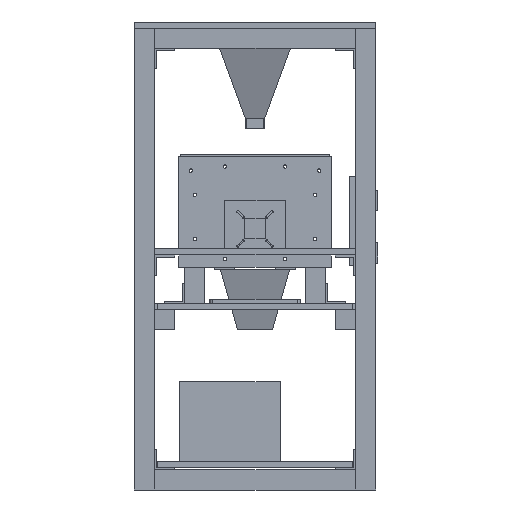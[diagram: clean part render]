
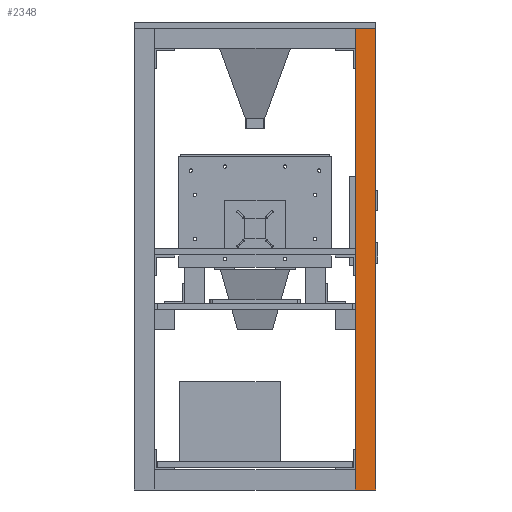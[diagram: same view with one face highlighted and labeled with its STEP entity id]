
A CAD part, left-side view. The second image highlights one B-rep face of the part: STEP entity #2348.
In plain terms, the highlighted planar face has unit normal (-1, 0, 0).
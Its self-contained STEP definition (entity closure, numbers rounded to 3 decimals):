
#2348 = ADVANCED_FACE('',(#2349),#2363,.F.);
#2349 = FACE_BOUND('',#2350,.F.);
#2350 = EDGE_LOOP('',(#2351,#2386,#2414,#2442));
#2351 = ORIENTED_EDGE('',*,*,#2352,.F.);
#2352 = EDGE_CURVE('',#2353,#2355,#2357,.T.);
#2353 = VERTEX_POINT('',#2354);
#2354 = CARTESIAN_POINT('',(0.,0.,0.));
#2355 = VERTEX_POINT('',#2356);
#2356 = CARTESIAN_POINT('',(0.,0.,460.));
#2357 = SURFACE_CURVE('',#2358,(#2362,#2374),.PCURVE_S1.);
#2358 = LINE('',#2359,#2360);
#2359 = CARTESIAN_POINT('',(0.,0.,0.));
#2360 = VECTOR('',#2361,1.);
#2361 = DIRECTION('',(0.,0.,1.));
#2362 = PCURVE('',#2363,#2368);
#2363 = PLANE('',#2364);
#2364 = AXIS2_PLACEMENT_3D('',#2365,#2366,#2367);
#2365 = CARTESIAN_POINT('',(0.,0.,0.));
#2366 = DIRECTION('',(1.,0.,0.));
#2367 = DIRECTION('',(0.,0.,1.));
#2368 = DEFINITIONAL_REPRESENTATION('',(#2369),#2373);
#2369 = LINE('',#2370,#2371);
#2370 = CARTESIAN_POINT('',(0.,0.));
#2371 = VECTOR('',#2372,1.);
#2372 = DIRECTION('',(1.,0.));
#2373 = ( GEOMETRIC_REPRESENTATION_CONTEXT(2) 
PARAMETRIC_REPRESENTATION_CONTEXT() REPRESENTATION_CONTEXT('2D SPACE',''
  ) );
#2374 = PCURVE('',#2375,#2380);
#2375 = PLANE('',#2376);
#2376 = AXIS2_PLACEMENT_3D('',#2377,#2378,#2379);
#2377 = CARTESIAN_POINT('',(0.,0.,0.));
#2378 = DIRECTION('',(0.,1.,0.));
#2379 = DIRECTION('',(0.,0.,1.));
#2380 = DEFINITIONAL_REPRESENTATION('',(#2381),#2385);
#2381 = LINE('',#2382,#2383);
#2382 = CARTESIAN_POINT('',(0.,0.));
#2383 = VECTOR('',#2384,1.);
#2384 = DIRECTION('',(1.,0.));
#2385 = ( GEOMETRIC_REPRESENTATION_CONTEXT(2) 
PARAMETRIC_REPRESENTATION_CONTEXT() REPRESENTATION_CONTEXT('2D SPACE',''
  ) );
#2386 = ORIENTED_EDGE('',*,*,#2387,.T.);
#2387 = EDGE_CURVE('',#2353,#2388,#2390,.T.);
#2388 = VERTEX_POINT('',#2389);
#2389 = CARTESIAN_POINT('',(0.,20.,0.));
#2390 = SURFACE_CURVE('',#2391,(#2395,#2402),.PCURVE_S1.);
#2391 = LINE('',#2392,#2393);
#2392 = CARTESIAN_POINT('',(0.,0.,0.));
#2393 = VECTOR('',#2394,1.);
#2394 = DIRECTION('',(0.,1.,0.));
#2395 = PCURVE('',#2363,#2396);
#2396 = DEFINITIONAL_REPRESENTATION('',(#2397),#2401);
#2397 = LINE('',#2398,#2399);
#2398 = CARTESIAN_POINT('',(0.,0.));
#2399 = VECTOR('',#2400,1.);
#2400 = DIRECTION('',(0.,-1.));
#2401 = ( GEOMETRIC_REPRESENTATION_CONTEXT(2) 
PARAMETRIC_REPRESENTATION_CONTEXT() REPRESENTATION_CONTEXT('2D SPACE',''
  ) );
#2402 = PCURVE('',#2403,#2408);
#2403 = PLANE('',#2404);
#2404 = AXIS2_PLACEMENT_3D('',#2405,#2406,#2407);
#2405 = CARTESIAN_POINT('',(0.,0.,0.));
#2406 = DIRECTION('',(0.,0.,1.));
#2407 = DIRECTION('',(1.,0.,0.));
#2408 = DEFINITIONAL_REPRESENTATION('',(#2409),#2413);
#2409 = LINE('',#2410,#2411);
#2410 = CARTESIAN_POINT('',(0.,0.));
#2411 = VECTOR('',#2412,1.);
#2412 = DIRECTION('',(0.,1.));
#2413 = ( GEOMETRIC_REPRESENTATION_CONTEXT(2) 
PARAMETRIC_REPRESENTATION_CONTEXT() REPRESENTATION_CONTEXT('2D SPACE',''
  ) );
#2414 = ORIENTED_EDGE('',*,*,#2415,.T.);
#2415 = EDGE_CURVE('',#2388,#2416,#2418,.T.);
#2416 = VERTEX_POINT('',#2417);
#2417 = CARTESIAN_POINT('',(0.,20.,460.));
#2418 = SURFACE_CURVE('',#2419,(#2423,#2430),.PCURVE_S1.);
#2419 = LINE('',#2420,#2421);
#2420 = CARTESIAN_POINT('',(0.,20.,0.));
#2421 = VECTOR('',#2422,1.);
#2422 = DIRECTION('',(0.,0.,1.));
#2423 = PCURVE('',#2363,#2424);
#2424 = DEFINITIONAL_REPRESENTATION('',(#2425),#2429);
#2425 = LINE('',#2426,#2427);
#2426 = CARTESIAN_POINT('',(0.,-20.));
#2427 = VECTOR('',#2428,1.);
#2428 = DIRECTION('',(1.,0.));
#2429 = ( GEOMETRIC_REPRESENTATION_CONTEXT(2) 
PARAMETRIC_REPRESENTATION_CONTEXT() REPRESENTATION_CONTEXT('2D SPACE',''
  ) );
#2430 = PCURVE('',#2431,#2436);
#2431 = PLANE('',#2432);
#2432 = AXIS2_PLACEMENT_3D('',#2433,#2434,#2435);
#2433 = CARTESIAN_POINT('',(0.,20.,0.));
#2434 = DIRECTION('',(0.,1.,0.));
#2435 = DIRECTION('',(0.,0.,1.));
#2436 = DEFINITIONAL_REPRESENTATION('',(#2437),#2441);
#2437 = LINE('',#2438,#2439);
#2438 = CARTESIAN_POINT('',(0.,0.));
#2439 = VECTOR('',#2440,1.);
#2440 = DIRECTION('',(1.,0.));
#2441 = ( GEOMETRIC_REPRESENTATION_CONTEXT(2) 
PARAMETRIC_REPRESENTATION_CONTEXT() REPRESENTATION_CONTEXT('2D SPACE',''
  ) );
#2442 = ORIENTED_EDGE('',*,*,#2443,.F.);
#2443 = EDGE_CURVE('',#2355,#2416,#2444,.T.);
#2444 = SURFACE_CURVE('',#2445,(#2449,#2456),.PCURVE_S1.);
#2445 = LINE('',#2446,#2447);
#2446 = CARTESIAN_POINT('',(0.,0.,460.));
#2447 = VECTOR('',#2448,1.);
#2448 = DIRECTION('',(0.,1.,0.));
#2449 = PCURVE('',#2363,#2450);
#2450 = DEFINITIONAL_REPRESENTATION('',(#2451),#2455);
#2451 = LINE('',#2452,#2453);
#2452 = CARTESIAN_POINT('',(460.,0.));
#2453 = VECTOR('',#2454,1.);
#2454 = DIRECTION('',(0.,-1.));
#2455 = ( GEOMETRIC_REPRESENTATION_CONTEXT(2) 
PARAMETRIC_REPRESENTATION_CONTEXT() REPRESENTATION_CONTEXT('2D SPACE',''
  ) );
#2456 = PCURVE('',#2457,#2462);
#2457 = PLANE('',#2458);
#2458 = AXIS2_PLACEMENT_3D('',#2459,#2460,#2461);
#2459 = CARTESIAN_POINT('',(0.,0.,460.));
#2460 = DIRECTION('',(0.,0.,1.));
#2461 = DIRECTION('',(1.,0.,0.));
#2462 = DEFINITIONAL_REPRESENTATION('',(#2463),#2467);
#2463 = LINE('',#2464,#2465);
#2464 = CARTESIAN_POINT('',(0.,0.));
#2465 = VECTOR('',#2466,1.);
#2466 = DIRECTION('',(0.,1.));
#2467 = ( GEOMETRIC_REPRESENTATION_CONTEXT(2) 
PARAMETRIC_REPRESENTATION_CONTEXT() REPRESENTATION_CONTEXT('2D SPACE',''
  ) );
